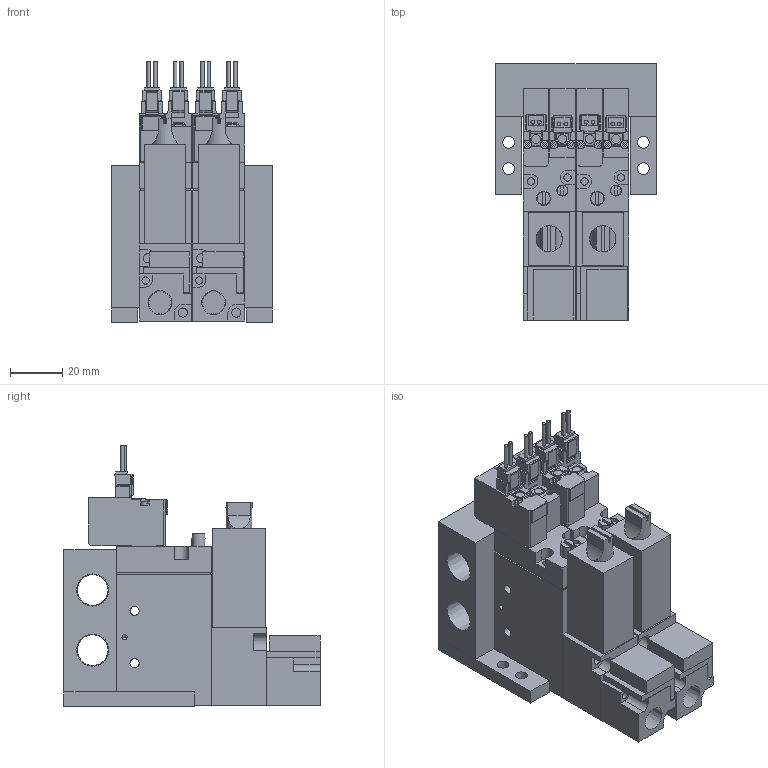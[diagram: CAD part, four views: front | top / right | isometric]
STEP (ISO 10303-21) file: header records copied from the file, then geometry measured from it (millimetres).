
FILE_DESCRIPTION(('STEP AP203'),'1');
FILE_NAME('BMPV32M2NZ25AL202.stp','2025-06-17T01:12:19',(' '),(' '),'Spatial InterOp 3D',' ',' ');
FILE_SCHEMA(('CONFIG_CONTROL_DESIGN'));
Length unit declared in the file: millimetre
Products named in the file (28): BMPV32M2NZ25AL202; S____; ___ ___2; ___-2(Rc); Filter Assy; __; _____; BMPV32 MB02; MB BRACKET; ___; upper plate-A; ______; ____; VACUUM VALVE FUNCTION MPV42-A; UV280-4E
Assembly tree (27 placements, depth 2):
  BMPV32M2NZ25AL202
    S____
    ___ ___2
    ___-2(Rc)
    Filter Assy
    __
    _____
    BMPV32 MB02
    MB BRACKET
    MB BRACKET
    S____
    ___ ___2
    ___-2(Rc)
    Filter Assy
    __
    _____
    ___
    upper plate-A
    ______
    ____
    VACUUM VALVE FUNCTION MPV42-A
    ___
    upper plate-A
    ______
    ____
    VACUUM VALVE FUNCTION MPV42-A
    UV280-4E
    UV280-4E
Bounding box: 61.5 x 98 x 99.75 mm (x, y, z)
Volume: 229866 mm3; surface area: 80147.1 mm2
Topology: 27 solids, 27 shells, 765 faces, 1992 edges, 1318 vertices
Faces by surface type: plane 609, cylinder 136, cone 20
Full cylindrical faces by diameter (mm): 1.4 x8, 1.8 x4, 2 x4, 2.5 x8, 2.8 x8, 3 x8, 3.5 x24, 4 x2, 4.2 x2, 4.5 x4, 5 x2, 5.5 x2, 6.5 x6, 8.522 x2, 11.776 x2
Entity records: 24112 total; most frequent: CARTESIAN_POINT 4089, DIRECTION 3768, ORIENTED_EDGE 3700, EDGE_CURVE 1850, LINE 1502, VECTOR 1502, VERTEX_POINT 1298, AXIS2_PLACEMENT_3D 1133
